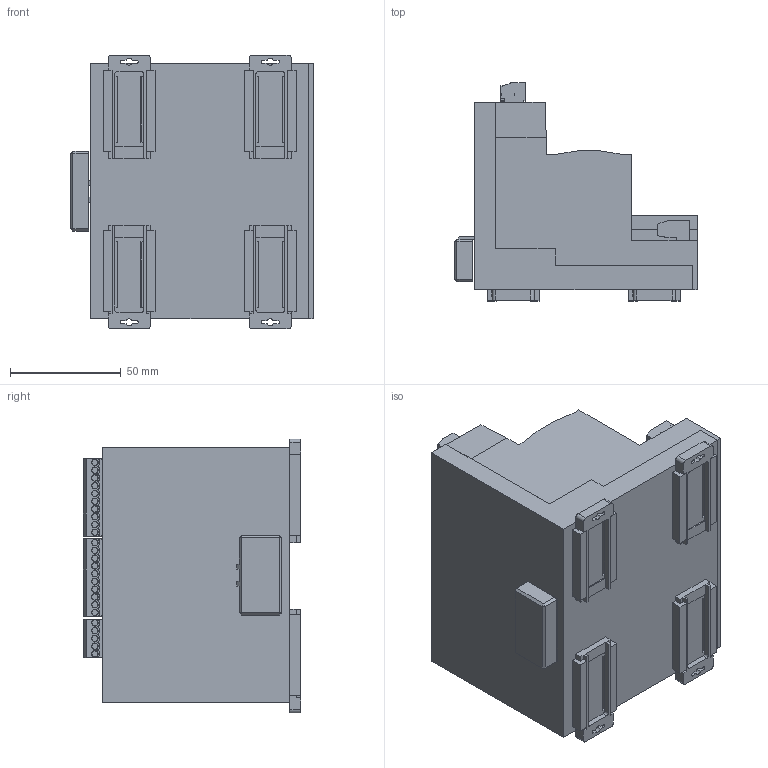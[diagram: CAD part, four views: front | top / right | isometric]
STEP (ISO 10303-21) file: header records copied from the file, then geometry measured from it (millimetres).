
FILE_DESCRIPTION (( 'STEP AP203' ), '1' );
FILE_NAME ('PLC410.STEP', '2023-08-21T12:28:47', ( '' ), ( '' ), 'SwSTEP 2.0', 'SolidWorks 2018', '' );
FILE_SCHEMA (( 'CONFIG_CONTROL_DESIGN' ));
Length unit declared in the file: millimetre
Products named in the file (1): PLC410
Bounding box: 109.48 x 98.19 x 123.46 mm (x, y, z)
Volume: 147980.1 mm3; surface area: 135574.7 mm2
Topology: 17 solids, 17 shells, 717 faces, 1841 edges, 1216 vertices
Faces by surface type: plane 478, cylinder 239
Entity records: 21818 total; most frequent: CARTESIAN_POINT 3775, DIRECTION 3755, ORIENTED_EDGE 3682, EDGE_CURVE 1841, LINE 1363, VECTOR 1363, VERTEX_POINT 1216, AXIS2_PLACEMENT_3D 1196
